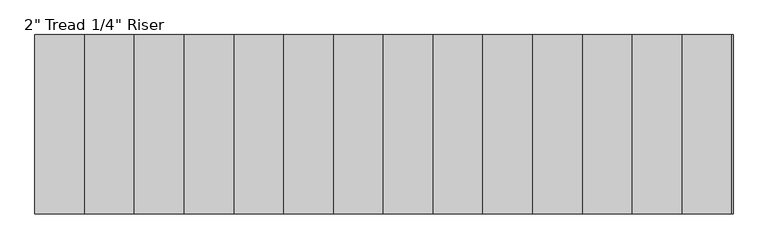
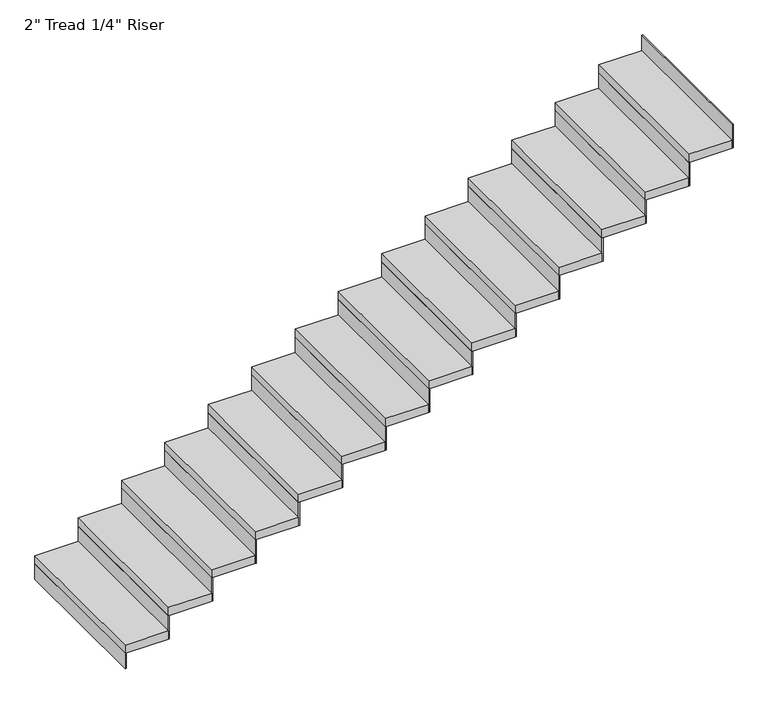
"""IFC4 building model written with IfcOpenShell, lengths in millimetres: stair flight geometry."""

from ifc_helpers import new_model, si_unit, frame, origin, origin_with_axes, place, context, project, spatial, polyline, outline, extrude, source, transform, mapped, element, save


def stair_flight_f7af0ae6(model_context):
    return source(origin(), model_context, "Body", "SweptSolid", [
        extrude(outline(polyline([(159432.6120703, 33927.1265585), (159426.2620703, 33927.1265585), (159426.2620703, 34841.5265585), (159432.6120703, 34841.5265585), (159432.6120703, 33927.1265585)])), origin_with_axes(), (0.0, 0.0, 1.0), 94.3428571),
        extrude(outline(polyline([(159680.2620703, 34841.5265585), (159680.2620703, 33927.1265585), (159426.2620703, 33927.1265585), (159426.2620703, 34841.5265585), (159680.2620703, 34841.5265585)])), frame((0.0, 0.0, 94.3428571), z_axis=(0.0, 0.0, 1.0), x_axis=(1.0, 0.0, 0.0)), (0.0, 0.0, 1.0), 50.8),
        extrude(outline(polyline([(159686.6120703, 33927.1265585), (159680.2620703, 33927.1265585), (159680.2620703, 34841.5265585), (159686.6120703, 34841.5265585), (159686.6120703, 33927.1265585)])), frame((0.0, 0.0, 94.3428571), z_axis=(0.0, 0.0, 1.0), x_axis=(1.0, 0.0, 0.0)), (0.0, 0.0, 1.0), 145.1428571),
        extrude(outline(polyline([(159934.2620703, 34841.5265585), (159934.2620703, 33927.1265585), (159680.2620703, 33927.1265585), (159680.2620703, 34841.5265585), (159934.2620703, 34841.5265585)])), frame((0.0, 0.0, 239.4857143), z_axis=(0.0, 0.0, 1.0), x_axis=(1.0, 0.0, 0.0)), (0.0, 0.0, 1.0), 50.8),
        extrude(outline(polyline([(159940.6120703, 33927.1265585), (159934.2620703, 33927.1265585), (159934.2620703, 34841.5265585), (159940.6120703, 34841.5265585), (159940.6120703, 33927.1265585)])), frame((0.0, 0.0, 239.4857143), z_axis=(0.0, 0.0, 1.0), x_axis=(1.0, 0.0, 0.0)), (0.0, 0.0, 1.0), 145.1428571),
        extrude(outline(polyline([(160188.2620703, 34841.5265585), (160188.2620703, 33927.1265585), (159934.2620703, 33927.1265585), (159934.2620703, 34841.5265585), (160188.2620703, 34841.5265585)])), frame((0.0, 0.0, 384.6285714), z_axis=(0.0, 0.0, 1.0), x_axis=(1.0, 0.0, 0.0)), (0.0, 0.0, 1.0), 50.8),
        extrude(outline(polyline([(160194.6120703, 33927.1265585), (160188.2620703, 33927.1265585), (160188.2620703, 34841.5265585), (160194.6120703, 34841.5265585), (160194.6120703, 33927.1265585)])), frame((0.0, 0.0, 384.6285714), z_axis=(0.0, 0.0, 1.0), x_axis=(1.0, 0.0, 0.0)), (0.0, 0.0, 1.0), 145.1428571),
        extrude(outline(polyline([(160442.2620703, 34841.5265585), (160442.2620703, 33927.1265585), (160188.2620703, 33927.1265585), (160188.2620703, 34841.5265585), (160442.2620703, 34841.5265585)])), frame((0.0, 0.0, 529.7714286), z_axis=(0.0, 0.0, 1.0), x_axis=(1.0, 0.0, 0.0)), (0.0, 0.0, 1.0), 50.8),
        extrude(outline(polyline([(160448.6120703, 33927.1265585), (160442.2620703, 33927.1265585), (160442.2620703, 34841.5265585), (160448.6120703, 34841.5265585), (160448.6120703, 33927.1265585)])), frame((0.0, 0.0, 529.7714286), z_axis=(0.0, 0.0, 1.0), x_axis=(1.0, 0.0, 0.0)), (0.0, 0.0, 1.0), 145.1428571),
        extrude(outline(polyline([(160696.2620703, 34841.5265585), (160696.2620703, 33927.1265585), (160442.2620703, 33927.1265585), (160442.2620703, 34841.5265585), (160696.2620703, 34841.5265585)])), frame((0.0, 0.0, 674.9142857), z_axis=(0.0, 0.0, 1.0), x_axis=(1.0, 0.0, 0.0)), (0.0, 0.0, 1.0), 50.8),
        extrude(outline(polyline([(160702.6120703, 33927.1265585), (160696.2620703, 33927.1265585), (160696.2620703, 34841.5265585), (160702.6120703, 34841.5265585), (160702.6120703, 33927.1265585)])), frame((0.0, 0.0, 674.9142857), z_axis=(0.0, 0.0, 1.0), x_axis=(1.0, 0.0, 0.0)), (0.0, 0.0, 1.0), 145.1428571),
        extrude(outline(polyline([(160950.2620703, 34841.5265585), (160950.2620703, 33927.1265585), (160696.2620703, 33927.1265585), (160696.2620703, 34841.5265585), (160950.2620703, 34841.5265585)])), frame((0.0, 0.0, 820.0571429), z_axis=(0.0, 0.0, 1.0), x_axis=(1.0, 0.0, 0.0)), (0.0, 0.0, 1.0), 50.8),
        extrude(outline(polyline([(160956.6120703, 33927.1265585), (160950.2620703, 33927.1265585), (160950.2620703, 34841.5265585), (160956.6120703, 34841.5265585), (160956.6120703, 33927.1265585)])), frame((0.0, 0.0, 820.0571429), z_axis=(0.0, 0.0, 1.0), x_axis=(1.0, 0.0, 0.0)), (0.0, 0.0, 1.0), 145.1428571),
        extrude(outline(polyline([(161204.2620703, 34841.5265585), (161204.2620703, 33927.1265585), (160950.2620703, 33927.1265585), (160950.2620703, 34841.5265585), (161204.2620703, 34841.5265585)])), frame((0.0, 0.0, 965.2), z_axis=(0.0, 0.0, 1.0), x_axis=(1.0, 0.0, 0.0)), (0.0, 0.0, 1.0), 50.8),
        extrude(outline(polyline([(161210.6120703, 33927.1265585), (161204.2620703, 33927.1265585), (161204.2620703, 34841.5265585), (161210.6120703, 34841.5265585), (161210.6120703, 33927.1265585)])), frame((0.0, 0.0, 965.2), z_axis=(0.0, 0.0, 1.0), x_axis=(1.0, 0.0, 0.0)), (0.0, 0.0, 1.0), 145.1428571),
        extrude(outline(polyline([(161458.2620703, 34841.5265585), (161458.2620703, 33927.1265585), (161204.2620703, 33927.1265585), (161204.2620703, 34841.5265585), (161458.2620703, 34841.5265585)])), frame((0.0, 0.0, 1110.3428571), z_axis=(0.0, 0.0, 1.0), x_axis=(1.0, 0.0, 0.0)), (0.0, 0.0, 1.0), 50.8),
        extrude(outline(polyline([(161464.6120703, 33927.1265585), (161458.2620703, 33927.1265585), (161458.2620703, 34841.5265585), (161464.6120703, 34841.5265585), (161464.6120703, 33927.1265585)])), frame((0.0, 0.0, 1110.3428571), z_axis=(0.0, 0.0, 1.0), x_axis=(1.0, 0.0, 0.0)), (0.0, 0.0, 1.0), 145.1428571),
        extrude(outline(polyline([(161712.2620703, 34841.5265585), (161712.2620703, 33927.1265585), (161458.2620703, 33927.1265585), (161458.2620703, 34841.5265585), (161712.2620703, 34841.5265585)])), frame((0.0, 0.0, 1255.4857143), z_axis=(0.0, 0.0, 1.0), x_axis=(1.0, 0.0, 0.0)), (0.0, 0.0, 1.0), 50.8),
        extrude(outline(polyline([(161718.6120703, 33927.1265585), (161712.2620703, 33927.1265585), (161712.2620703, 34841.5265585), (161718.6120703, 34841.5265585), (161718.6120703, 33927.1265585)])), frame((0.0, 0.0, 1255.4857143), z_axis=(0.0, 0.0, 1.0), x_axis=(1.0, 0.0, 0.0)), (0.0, 0.0, 1.0), 145.1428571),
        extrude(outline(polyline([(161966.2620703, 34841.5265585), (161966.2620703, 33927.1265585), (161712.2620703, 33927.1265585), (161712.2620703, 34841.5265585), (161966.2620703, 34841.5265585)])), frame((0.0, 0.0, 1400.6285714), z_axis=(0.0, 0.0, 1.0), x_axis=(1.0, 0.0, 0.0)), (0.0, 0.0, 1.0), 50.8),
        extrude(outline(polyline([(161972.6120703, 33927.1265585), (161966.2620703, 33927.1265585), (161966.2620703, 34841.5265585), (161972.6120703, 34841.5265585), (161972.6120703, 33927.1265585)])), frame((0.0, 0.0, 1400.6285714), z_axis=(0.0, 0.0, 1.0), x_axis=(1.0, 0.0, 0.0)), (0.0, 0.0, 1.0), 145.1428571),
        extrude(outline(polyline([(162220.2620703, 34841.5265585), (162220.2620703, 33927.1265585), (161966.2620703, 33927.1265585), (161966.2620703, 34841.5265585), (162220.2620703, 34841.5265585)])), frame((0.0, 0.0, 1545.7714286), z_axis=(0.0, 0.0, 1.0), x_axis=(1.0, 0.0, 0.0)), (0.0, 0.0, 1.0), 50.8),
        extrude(outline(polyline([(162226.6120703, 33927.1265585), (162220.2620703, 33927.1265585), (162220.2620703, 34841.5265585), (162226.6120703, 34841.5265585), (162226.6120703, 33927.1265585)])), frame((0.0, 0.0, 1545.7714286), z_axis=(0.0, 0.0, 1.0), x_axis=(1.0, 0.0, 0.0)), (0.0, 0.0, 1.0), 145.1428571),
        extrude(outline(polyline([(162474.2620703, 34841.5265585), (162474.2620703, 33927.1265585), (162220.2620703, 33927.1265585), (162220.2620703, 34841.5265585), (162474.2620703, 34841.5265585)])), frame((0.0, 0.0, 1690.9142857), z_axis=(0.0, 0.0, 1.0), x_axis=(1.0, 0.0, 0.0)), (0.0, 0.0, 1.0), 50.8),
        extrude(outline(polyline([(162480.6120703, 33927.1265585), (162474.2620703, 33927.1265585), (162474.2620703, 34841.5265585), (162480.6120703, 34841.5265585), (162480.6120703, 33927.1265585)])), frame((0.0, 0.0, 1690.9142857), z_axis=(0.0, 0.0, 1.0), x_axis=(1.0, 0.0, 0.0)), (0.0, 0.0, 1.0), 145.1428571),
        extrude(outline(polyline([(162728.2620703, 34841.5265585), (162728.2620703, 33927.1265585), (162474.2620703, 33927.1265585), (162474.2620703, 34841.5265585), (162728.2620703, 34841.5265585)])), frame((0.0, 0.0, 1836.0571429), z_axis=(0.0, 0.0, 1.0), x_axis=(1.0, 0.0, 0.0)), (0.0, 0.0, 1.0), 50.8),
        extrude(outline(polyline([(162734.6120703, 33927.1265585), (162728.2620703, 33927.1265585), (162728.2620703, 34841.5265585), (162734.6120703, 34841.5265585), (162734.6120703, 33927.1265585)])), frame((0.0, 0.0, 1836.0571429), z_axis=(0.0, 0.0, 1.0), x_axis=(1.0, 0.0, 0.0)), (0.0, 0.0, 1.0), 145.1428571),
        extrude(outline(polyline([(162988.6120703, 33927.1265585), (162982.2620703, 33927.1265585), (162982.2620703, 34841.5265585), (162988.6120703, 34841.5265585), (162988.6120703, 33927.1265585)])), frame((0.0, 0.0, 1981.2), z_axis=(0.0, 0.0, 1.0), x_axis=(1.0, 0.0, 0.0)), (0.0, 0.0, 1.0), 145.1428571),
        extrude(outline(polyline([(162982.2620703, 34841.5265585), (162982.2620703, 33927.1265585), (162728.2620703, 33927.1265585), (162728.2620703, 34841.5265585), (162982.2620703, 34841.5265585)])), frame((0.0, 0.0, 1981.2), z_axis=(0.0, 0.0, 1.0), x_axis=(1.0, 0.0, 0.0)), (0.0, 0.0, 1.0), 50.8),
    ])


if __name__ == "__main__":
    model = new_model("IFC4")
    model_context = context("Model", 3, world=origin())
    ifc_project = project(units=[si_unit("LENGTHUNIT", "METRE", prefix="MILLI")], contexts=[model_context])
    site = spatial("IfcSite", under=ifc_project)
    building = spatial("IfcBuilding", under=site)
    placement = place(None, origin())
    stair_flight_shape = stair_flight_f7af0ae6(model_context)
    element("IfcStairFlight", 1, ObjectType="2\" Tread 1/4\" Riser", at=placement, inside=building, context=model_context, shape_type="MappedRepresentation", body=[
        mapped(stair_flight_shape, transform((0.0, 0.0, 0.0), x_axis=(1.0, 0.0, 0.0), y_axis=(0.0, 1.0, 0.0), z_axis=(0.0, 0.0, 1.0))),
    ])
    save(model, "model.ifc")
